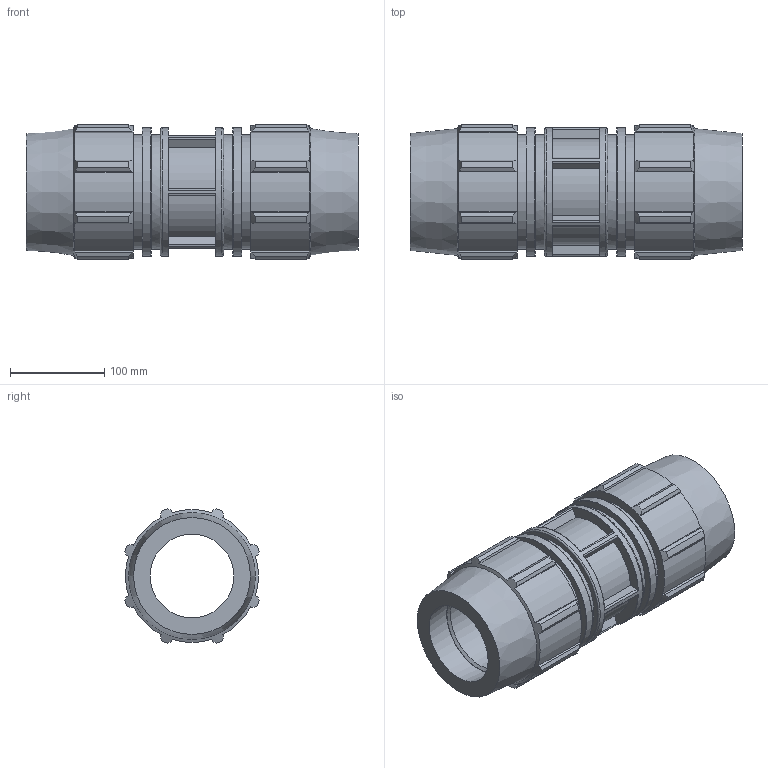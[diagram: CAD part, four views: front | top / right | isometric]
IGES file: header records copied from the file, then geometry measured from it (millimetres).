
Global section: file name: 0761M0030.ipt; native system: Autodesk Inventor 2019; preprocessor: unknown; author: KIM; date: 20210826.124851; units: inch
Bounding box: 352.81 x 142.92 x 142.92 mm (x, y, z)
Volume: 2677438.1 mm3; surface area: 308204.6 mm2
Topology: 1 solids, 1 shells, 200 faces, 559 edges, 376 vertices
Faces by surface type: plane 100, cylinder 57, revolution 23, cone 20
Full cylindrical faces by diameter (mm): 121.514 x4, 136.703 x3
